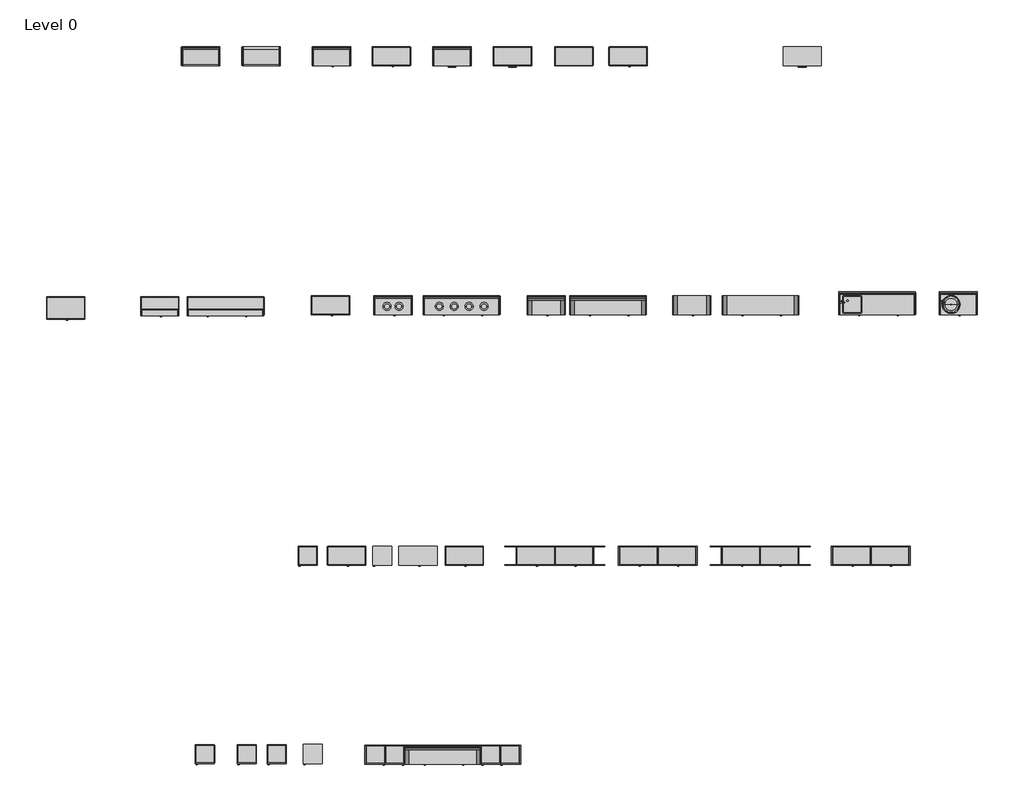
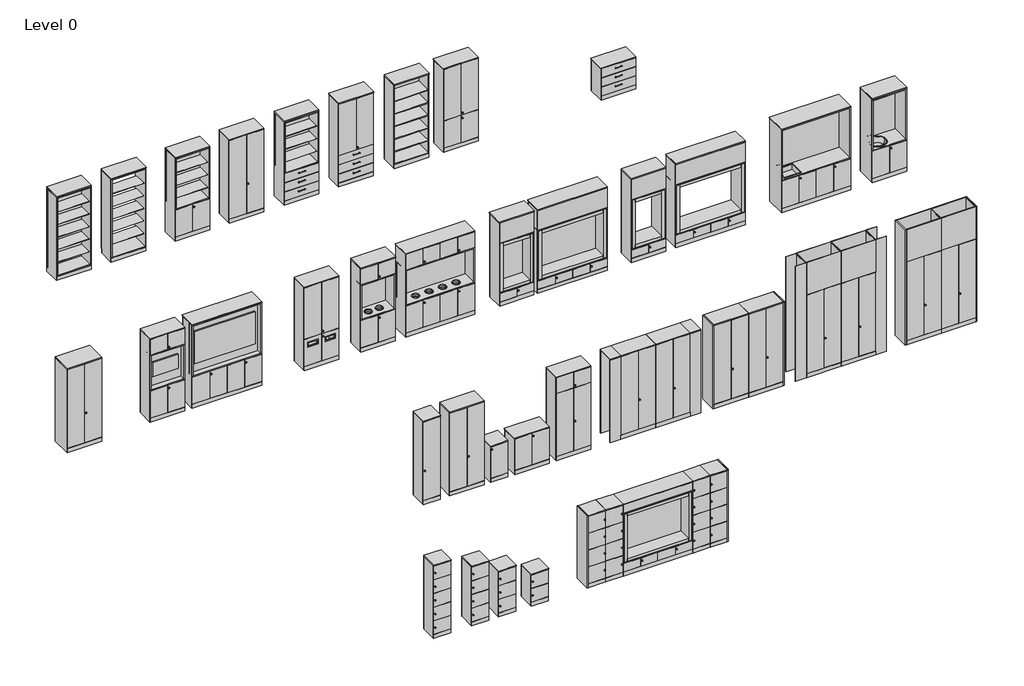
# One storey: 43 furniture elements.
"""IFC4 building model written with IfcOpenShell, lengths in millimetres."""

from ifc_helpers import new_model, si_unit, origin, place, context, project, spatial, transform, mapped, element, save
from components import furniture_3b9fb04d, furniture_51bc77b1, furniture_90a64089, furniture_6ea01ff0, furniture_f89f9e7b, furniture_7591eba8, furniture_052f12db, furniture_b352a6ba, furniture_eb67927f, furniture_93f1a666, furniture_d6841995, furniture_00a0bb52, furniture_08b1c1f8, furniture_1b5e50f1, furniture_0d8f1cfd, furniture_8fe791fa, furniture_2_high_d0233c43, furniture_3_high_bf73a739, furniture_4_high_ba79d616, furniture_4_high_febe7ffe, furniture_4_high_dffadb12, furniture_4_high_c314e3b5, furniture_4_high_4212a1f7, furniture_5_high_cc2030e8, display_module_cf8f66f0, doors_module_1eb81610, doors_module_43d534ba, doors_module_73139786, doors_module_98f6794c, doors_module_a6a85d60, doors_module_63813612, doors_module_3dcb20ef, doors_module_adceae11, doors_module_a12276d2, doors_module_314bc384, doors_module_09854d80, doors_module_149b00ae, doors_module_16a4452a, drawers_module_4158d031, high_waste_module_f75e4131, open_front_module_2814b3d3, split_doors_module_79d25c07

model = new_model("IFC4")

# Units and contexts
model_context = context("Model", 3, world=origin())
ifc_project = project(units=[si_unit("LENGTHUNIT", "METRE", prefix="MILLI")], contexts=[model_context])

# Site, building, storey
site = spatial("IfcSite", under=ifc_project)
building = spatial("IfcBuilding", under=site)
storey = spatial("IfcBuildingStorey", under=building, Name="Level 0", Elevation=0.0)

# Furniture
placement = place(None, origin())
furniture_shape = furniture_3b9fb04d(model_context)
element("IfcFurniture", 1, ObjectType="Furniture_Storage_Spacestor_SignatureStoragewall : Display Module Backless", at=placement, inside=storey, context=model_context, shape_type="MappedRepresentation", body=[
    mapped(furniture_shape, transform((-8995.2358906, 3950.4937354, 0.0), x_axis=(1.0, 0.0, 0.0), y_axis=(0.0, 1.0, 0.0), z_axis=(0.0, 0.0, 1.0))),
])
furniture_2_shape = furniture_51bc77b1(model_context)
element("IfcFurniture", 2, ObjectType="Furniture_Storage_Spacestor_SignatureStoragewall : Doors & Display Module", at=placement, inside=storey, context=model_context, shape_type="MappedRepresentation", body=[
    mapped(furniture_2_shape, transform((-7162.8466466, 3950.4937354, 0.0), x_axis=(1.0, 0.0, 0.0), y_axis=(0.0, 1.0, 0.0), z_axis=(0.0, 0.0, 1.0))),
])
furniture_3_shape = furniture_90a64089(model_context)
element("IfcFurniture", 3, ObjectType="Furniture_Storage_Spacestor_SignatureStoragewall : Drawers & Display Module", at=placement, inside=storey, context=model_context, shape_type="MappedRepresentation", body=[
    mapped(furniture_3_shape, transform((-4024.1997238, 3950.4937354, 0.0), x_axis=(1.0, 0.0, 0.0), y_axis=(0.0, 1.0, 0.0), z_axis=(0.0, 0.0, 1.0))),
])
furniture_4_shape = furniture_6ea01ff0(model_context)
element("IfcFurniture", 4, ObjectType="Furniture_Storage_Spacestor_SignatureStoragewall : Drawers & Doors Module", at=placement, inside=storey, context=model_context, shape_type="MappedRepresentation", body=[
    mapped(furniture_4_shape, transform((-2445.8050285, 3950.4937354, 0.0), x_axis=(1.0, 0.0, 0.0), y_axis=(0.0, 1.0, 0.0), z_axis=(0.0, 0.0, 1.0))),
])
furniture_5_shape = furniture_f89f9e7b(model_context)
element("IfcFurniture", 5, ObjectType="Furniture_Storage_Spacestor_SignatureStoragewall : Teapoint Breakout", at=placement, inside=storey, context=model_context, shape_type="MappedRepresentation", body=[
    mapped(furniture_5_shape, transform((6554.3103788, -2536.2095444, 0.0), x_axis=(1.0, 0.0, 0.0), y_axis=(0.0, 1.0, 0.0), z_axis=(0.0, 0.0, 1.0))),
])
furniture_6_shape = furniture_7591eba8(model_context)
element("IfcFurniture", 6, ObjectType="Furniture_Storage_Spacestor_SignatureStoragewall : Snugglestor Backless Double", at=placement, inside=storey, context=model_context, shape_type="MappedRepresentation", body=[
    mapped(furniture_6_shape, transform((3512.4032782, -2536.2095444, 0.0), x_axis=(1.0, 0.0, 0.0), y_axis=(0.0, 1.0, 0.0), z_axis=(0.0, 0.0, 1.0))),
])
furniture_7_shape = furniture_052f12db(model_context)
element("IfcFurniture", 7, ObjectType="Furniture_Storage_Spacestor_SignatureStoragewall : Snugglestor Double", at=placement, inside=storey, context=model_context, shape_type="MappedRepresentation", body=[
    mapped(furniture_7_shape, transform((-460.7628659, -2536.2095444, 0.0), x_axis=(1.0, 0.0, 0.0), y_axis=(0.0, 1.0, 0.0), z_axis=(0.0, 0.0, 1.0))),
])
furniture_8_shape = furniture_b352a6ba(model_context)
element("IfcFurniture", 8, ObjectType="Furniture_Storage_Spacestor_SignatureStoragewall : Teapoint Wakeup", at=placement, inside=storey, context=model_context, shape_type="MappedRepresentation", body=[
    mapped(furniture_8_shape, transform((9166.8257366, -2536.2095444, 0.0), x_axis=(1.0, 0.0, 0.0), y_axis=(0.0, 1.0, 0.0), z_axis=(0.0, 0.0, 1.0))),
])
furniture_9_shape = furniture_eb67927f(model_context)
element("IfcFurniture", 9, ObjectType="Furniture_Storage_Spacestor_SignatureStoragewall : Mediastor Single", at=placement, inside=storey, context=model_context, shape_type="MappedRepresentation", body=[
    mapped(furniture_9_shape, transform((-11636.0455328, -2556.7095444, 0.0), x_axis=(1.0, 0.0, 0.0), y_axis=(0.0, 1.0, 0.0), z_axis=(0.0, 0.0, 1.0))),
])
furniture_10_shape = furniture_93f1a666(model_context)
element("IfcFurniture", 10, ObjectType="Furniture_Storage_Spacestor_SignatureStoragewall : Mediastor Double", at=placement, inside=storey, context=model_context, shape_type="MappedRepresentation", body=[
    mapped(furniture_10_shape, transform((-10420.5001928, -2556.7095444, 0.0), x_axis=(1.0, 0.0, 0.0), y_axis=(0.0, 1.0, 0.0), z_axis=(0.0, 0.0, 1.0))),
])
furniture_11_shape = furniture_d6841995(model_context)
element("IfcFurniture", 11, ObjectType="Furniture_Storage_Spacestor_SignatureStoragewall : Coats Cupboard", at=placement, inside=storey, context=model_context, shape_type="MappedRepresentation", body=[
    mapped(furniture_11_shape, transform((-14086.6137185, -2656.7095444, 0.0), x_axis=(1.0, 0.0, 0.0), y_axis=(0.0, 1.0, 0.0), z_axis=(0.0, 0.0, 1.0))),
])
furniture_12_shape = furniture_00a0bb52(model_context)
element("IfcFurniture", 12, ObjectType="Furniture_Storage_Spacestor_SignatureStoragewall : Snugglestor Backless Single", at=placement, inside=storey, context=model_context, shape_type="MappedRepresentation", body=[
    mapped(furniture_12_shape, transform((2224.2880671, -2536.2095444, 0.0), x_axis=(1.0, 0.0, 0.0), y_axis=(0.0, 1.0, 0.0), z_axis=(0.0, 0.0, 1.0))),
])
furniture_13_shape = furniture_08b1c1f8(model_context)
element("IfcFurniture", 13, ObjectType="Furniture_Storage_Spacestor_SignatureStoragewall : Snugglestor Single", at=placement, inside=storey, context=model_context, shape_type="MappedRepresentation", body=[
    mapped(furniture_13_shape, transform((-1567.4533994, -2536.2095444, 0.0), x_axis=(1.0, 0.0, 0.0), y_axis=(0.0, 1.0, 0.0), z_axis=(0.0, 0.0, 1.0))),
])
furniture_14_shape = furniture_1b5e50f1(model_context)
element("IfcFurniture", 14, ObjectType="Furniture_Storage_Spacestor_SignatureStoragewall : Recyclepoint Double", at=placement, inside=storey, context=model_context, shape_type="MappedRepresentation", body=[
    mapped(furniture_14_shape, transform((-4271.4698989, -2536.2095444, 0.0), x_axis=(1.0, 0.0, 0.0), y_axis=(0.0, 1.0, 0.0), z_axis=(0.0, 0.0, 1.0))),
])
furniture_15_shape = furniture_0d8f1cfd(model_context)
element("IfcFurniture", 15, ObjectType="Furniture_Storage_Spacestor_SignatureStoragewall : Recyclepoint Single", at=placement, inside=storey, context=model_context, shape_type="MappedRepresentation", body=[
    mapped(furniture_15_shape, transform((-5559.58511, -2536.2095444, 0.0), x_axis=(1.0, 0.0, 0.0), y_axis=(0.0, 1.0, 0.0), z_axis=(0.0, 0.0, 1.0))),
])
furniture_16_shape = furniture_8fe791fa(model_context)
element("IfcFurniture", 16, ObjectType="Furniture_Storage_Spacestor_SignatureStoragewall : Snugglestor Double", at=placement, inside=storey, context=model_context, shape_type="MappedRepresentation", body=[
    mapped(furniture_16_shape, transform((-4765.733605, -14245.2693088, 0.0), x_axis=(1.0, 0.0, 0.0), y_axis=(0.0, 1.0, 0.0), z_axis=(0.0, 0.0, 1.0))),
])
furniture_2_high_shape = furniture_2_high_d0233c43(model_context)
element("IfcFurniture", 17, ObjectType="Furniture_Storage_Spacestor_SignatureHotLocker : 2-high", at=placement, inside=storey, context=model_context, shape_type="MappedRepresentation", body=[
    mapped(furniture_2_high_shape, transform((-7404.8999857, -14230.9210116, 0.0), x_axis=(1.0, 0.0, 0.0), y_axis=(0.0, 1.0, 0.0), z_axis=(0.0, 0.0, 1.0))),
])
furniture_3_high_shape = furniture_3_high_bf73a739(model_context)
element("IfcFurniture", 18, ObjectType="Furniture_Storage_Spacestor_SignatureHotLocker : 3-high", at=placement, inside=storey, context=model_context, shape_type="MappedRepresentation", body=[
    mapped(furniture_3_high_shape, transform((-8337.7013453, -14230.9210116, 0.0), x_axis=(1.0, 0.0, 0.0), y_axis=(0.0, 1.0, 0.0), z_axis=(0.0, 0.0, 1.0))),
])
furniture_4_high_shape = furniture_4_high_ba79d616(model_context)
element("IfcFurniture", 19, ObjectType="Furniture_Storage_Spacestor_SignatureHotLocker : 4-high", at=placement, inside=storey, context=model_context, shape_type="MappedRepresentation", body=[
    mapped(furniture_4_high_shape, transform((-9117.0927589, -14230.9210116, 0.0), x_axis=(1.0, 0.0, 0.0), y_axis=(0.0, 1.0, 0.0), z_axis=(0.0, 0.0, 1.0))),
])
furniture_4_high_2_shape = furniture_4_high_febe7ffe(model_context)
element("IfcFurniture", 20, ObjectType="Furniture_Storage_Spacestor_SignatureHotLocker : 4-high", at=placement, inside=storey, context=model_context, shape_type="MappedRepresentation", body=[
    mapped(furniture_4_high_2_shape, transform((-5265.733605, -14245.2693088, 0.0), x_axis=(1.0, 0.0, 0.0), y_axis=(0.0, 1.0, 0.0), z_axis=(0.0, 0.0, 1.0))),
])
furniture_4_high_3_shape = furniture_4_high_dffadb12(model_context)
element("IfcFurniture", 21, ObjectType="Furniture_Storage_Spacestor_SignatureHotLocker : 4-high", at=placement, inside=storey, context=model_context, shape_type="MappedRepresentation", body=[
    mapped(furniture_4_high_3_shape, transform((-2765.733605, -14245.2693088, 0.0), x_axis=(1.0, 0.0, 0.0), y_axis=(0.0, 1.0, 0.0), z_axis=(0.0, 0.0, 1.0))),
])
furniture_4_high_4_shape = furniture_4_high_c314e3b5(model_context)
element("IfcFurniture", 22, ObjectType="Furniture_Storage_Spacestor_SignatureHotLocker : 4-high", at=placement, inside=storey, context=model_context, shape_type="MappedRepresentation", body=[
    mapped(furniture_4_high_4_shape, transform((-2265.733605, -14245.2693088, 0.0), x_axis=(1.0, 0.0, 0.0), y_axis=(0.0, 1.0, 0.0), z_axis=(0.0, 0.0, 1.0))),
])
furniture_4_high_5_shape = furniture_4_high_4212a1f7(model_context)
element("IfcFurniture", 23, ObjectType="Furniture_Storage_Spacestor_SignatureHotLocker : 4-high", at=placement, inside=storey, context=model_context, shape_type="MappedRepresentation", body=[
    mapped(furniture_4_high_5_shape, transform((-5765.733605, -14245.2693088, 0.0), x_axis=(1.0, 0.0, 0.0), y_axis=(0.0, 1.0, 0.0), z_axis=(0.0, 0.0, 1.0))),
])
furniture_5_high_shape = furniture_5_high_cc2030e8(model_context)
element("IfcFurniture", 24, ObjectType="Furniture_Storage_Spacestor_SignatureHotLocker : 5-high", at=placement, inside=storey, context=model_context, shape_type="MappedRepresentation", body=[
    mapped(furniture_5_high_shape, transform((-10210.5213881, -14230.9210116, 0.0), x_axis=(1.0, 0.0, 0.0), y_axis=(0.0, 1.0, 0.0), z_axis=(0.0, 0.0, 1.0))),
])
display_module_shape = display_module_cf8f66f0(model_context)
element("IfcFurniture", 25, ObjectType="Furniture_Storage_Spacestor_SignatureStoragewall : Display Module", at=placement, inside=storey, context=model_context, shape_type="MappedRepresentation", body=[
    mapped(display_module_shape, transform((-10573.6305859, 3950.4937354, 0.0), x_axis=(1.0, 0.0, 0.0), y_axis=(0.0, 1.0, 0.0), z_axis=(0.0, 0.0, 1.0))),
])
doors_module_shape = doors_module_1eb81610(model_context)
element("IfcFurniture", 26, ObjectType="Furniture_Storage_Spacestor_SignatureStoragewall : Doors Module", at=placement, inside=storey, context=model_context, shape_type="MappedRepresentation", body=[
    mapped(doors_module_shape, transform((-5602.5944191, 3950.4937354, 0.0), x_axis=(1.0, 0.0, 0.0), y_axis=(0.0, 1.0, 0.0), z_axis=(0.0, 0.0, 1.0))),
])
element("IfcFurniture", 27, ObjectType="Furniture_Storage_Spacestor_SignatureStoragewall : Doors Module", at=placement, inside=storey, context=model_context, shape_type="MappedRepresentation", body=[
    mapped(doors_module_shape, transform((-6766.7965754, -9063.7426365, 0.0), x_axis=(1.0, 0.0, 0.0), y_axis=(0.0, 1.0, 0.0), z_axis=(0.0, 0.0, 1.0))),
])
doors_module_2_shape = doors_module_43d534ba(model_context)
element("IfcFurniture", 28, ObjectType="Furniture_Storage_Spacestor_SignatureStoragewall : Doors Module", at=placement, inside=storey, context=model_context, shape_type="MappedRepresentation", body=[
    mapped(doors_module_2_shape, transform((-7529.9461065, -9063.7426365, 0.0), x_axis=(1.0, 0.0, 0.0), y_axis=(0.0, 1.0, 0.0), z_axis=(0.0, 0.0, 1.0))),
])
doors_module_3_shape = doors_module_73139786(model_context)
element("IfcFurniture", 29, ObjectType="Furniture_Storage_Spacestor_SignatureStoragewall : Doors Module", at=placement, inside=storey, context=model_context, shape_type="MappedRepresentation", body=[
    mapped(doors_module_3_shape, transform((-5590.6570869, -9063.7426365, 0.0), x_axis=(1.0, 0.0, 0.0), y_axis=(0.0, 1.0, 0.0), z_axis=(0.0, 0.0, 1.0))),
])
doors_module_4_shape = doors_module_98f6794c(model_context)
element("IfcFurniture", 30, ObjectType="Furniture_Storage_Spacestor_SignatureStoragewall : Doors Module", at=placement, inside=storey, context=model_context, shape_type="MappedRepresentation", body=[
    mapped(doors_module_4_shape, transform((-4903.9526786, -9063.7426365, 0.0), x_axis=(1.0, 0.0, 0.0), y_axis=(0.0, 1.0, 0.0), z_axis=(0.0, 0.0, 1.0))),
])
doors_module_5_shape = doors_module_a6a85d60(model_context)
element("IfcFurniture", 31, ObjectType="Furniture_Storage_Spacestor_SignatureStoragewall : Doors Module", at=placement, inside=storey, context=model_context, shape_type="MappedRepresentation", body=[
    mapped(doors_module_5_shape, transform((-3702.5370285, -9063.7426365, 0.0), x_axis=(1.0, 0.0, 0.0), y_axis=(0.0, 1.0, 0.0), z_axis=(0.0, 0.0, 1.0))),
])
doors_module_6_shape = doors_module_63813612(model_context)
element("IfcFurniture", 32, ObjectType="Furniture_Storage_Spacestor_SignatureStoragewall : Doors Module", at=placement, inside=storey, context=model_context, shape_type="MappedRepresentation", body=[
    mapped(doors_module_6_shape, transform((-1840.6561572, -9063.7426365, 0.0), x_axis=(1.0, 0.0, 0.0), y_axis=(0.0, 1.0, 0.0), z_axis=(0.0, 0.0, 1.0))),
])
doors_module_7_shape = doors_module_3dcb20ef(model_context)
element("IfcFurniture", 33, ObjectType="Furniture_Storage_Spacestor_SignatureStoragewall : Doors Module", at=placement, inside=storey, context=model_context, shape_type="MappedRepresentation", body=[
    mapped(doors_module_7_shape, transform((-840.6561572, -9063.7426365, 0.0), x_axis=(1.0, 0.0, 0.0), y_axis=(0.0, 1.0, 0.0), z_axis=(0.0, 0.0, 1.0))),
])
doors_module_8_shape = doors_module_adceae11(model_context)
element("IfcFurniture", 34, ObjectType="Furniture_Storage_Spacestor_SignatureStoragewall : Doors Module", at=placement, inside=storey, context=model_context, shape_type="MappedRepresentation", body=[
    mapped(doors_module_8_shape, transform((3503.220583, -9063.7426365, 0.0), x_axis=(1.0, 0.0, 0.0), y_axis=(0.0, 1.0, 0.0), z_axis=(0.0, 0.0, 1.0))),
])
doors_module_9_shape = doors_module_a12276d2(model_context)
element("IfcFurniture", 35, ObjectType="Furniture_Storage_Spacestor_SignatureStoragewall : Doors Module", at=placement, inside=storey, context=model_context, shape_type="MappedRepresentation", body=[
    mapped(doors_module_9_shape, transform((4503.220583, -9063.7426365, 0.0), x_axis=(1.0, 0.0, 0.0), y_axis=(0.0, 1.0, 0.0), z_axis=(0.0, 0.0, 1.0))),
])
doors_module_10_shape = doors_module_314bc384(model_context)
element("IfcFurniture", 36, ObjectType="Furniture_Storage_Spacestor_SignatureStoragewall : Doors Module", at=placement, inside=storey, context=model_context, shape_type="MappedRepresentation", body=[
    mapped(doors_module_10_shape, transform((6382.865519, -9063.7426365, 0.0), x_axis=(1.0, 0.0, 0.0), y_axis=(0.0, 1.0, 0.0), z_axis=(0.0, 0.0, 1.0))),
])
doors_module_11_shape = doors_module_09854d80(model_context)
element("IfcFurniture", 37, ObjectType="Furniture_Storage_Spacestor_SignatureStoragewall : Doors Module", at=placement, inside=storey, context=model_context, shape_type="MappedRepresentation", body=[
    mapped(doors_module_11_shape, transform((7382.865519, -9063.7426365, 0.0), x_axis=(1.0, 0.0, 0.0), y_axis=(0.0, 1.0, 0.0), z_axis=(0.0, 0.0, 1.0))),
])
doors_module_12_shape = doors_module_149b00ae(model_context)
element("IfcFurniture", 38, ObjectType="Furniture_Storage_Spacestor_SignatureStoragewall : Doors Module", at=placement, inside=storey, context=model_context, shape_type="MappedRepresentation", body=[
    mapped(doors_module_12_shape, transform((835.3836253, -9063.7426365, 0.0), x_axis=(1.0, 0.0, 0.0), y_axis=(0.0, 1.0, 0.0), z_axis=(0.0, 0.0, 1.0))),
])
doors_module_13_shape = doors_module_16a4452a(model_context)
element("IfcFurniture", 39, ObjectType="Furniture_Storage_Spacestor_SignatureStoragewall : Doors Module", at=placement, inside=storey, context=model_context, shape_type="MappedRepresentation", body=[
    mapped(doors_module_13_shape, transform((1835.3836253, -9063.7426365, 0.0), x_axis=(1.0, 0.0, 0.0), y_axis=(0.0, 1.0, 0.0), z_axis=(0.0, 0.0, 1.0))),
])
drawers_module_shape = drawers_module_4158d031(model_context)
element("IfcFurniture", 40, ObjectType="Furniture_Storage_Spacestor_SignatureStoragewall : Drawers Module", at=placement, inside=storey, context=model_context, shape_type="MappedRepresentation", body=[
    mapped(drawers_module_shape, transform((5101.4615605, 3950.4937354, 0.0), x_axis=(1.0, 0.0, 0.0), y_axis=(0.0, 1.0, 0.0), z_axis=(0.0, 0.0, 1.0))),
])
high_waste_module_shape = high_waste_module_f75e4131(model_context)
element("IfcFurniture", 41, ObjectType="Furniture_Storage_Spacestor_SignatureStoragewall : High Waste Module", at=placement, inside=storey, context=model_context, shape_type="MappedRepresentation", body=[
    mapped(high_waste_module_shape, transform((-7187.8994123, -2536.2095444, 0.0), x_axis=(1.0, 0.0, 0.0), y_axis=(0.0, 1.0, 0.0), z_axis=(0.0, 0.0, 1.0))),
])
open_front_module_shape = open_front_module_2814b3d3(model_context)
element("IfcFurniture", 42, ObjectType="Furniture_Storage_Spacestor_SignatureStoragewall : Open Front Module", at=placement, inside=storey, context=model_context, shape_type="MappedRepresentation", body=[
    mapped(open_front_module_shape, transform((-849.2678655, 3950.4937354, 0.0), x_axis=(1.0, 0.0, 0.0), y_axis=(0.0, 1.0, 0.0), z_axis=(0.0, 0.0, 1.0))),
])
split_doors_module_shape = split_doors_module_79d25c07(model_context)
element("IfcFurniture", 43, ObjectType="Furniture_Storage_Spacestor_SignatureStoragewall : Split Doors Module", at=placement, inside=storey, context=model_context, shape_type="MappedRepresentation", body=[
    mapped(split_doors_module_shape, transform((565.84462, 3950.4937354, 0.0), x_axis=(1.0, 0.0, 0.0), y_axis=(0.0, 1.0, 0.0), z_axis=(0.0, 0.0, 1.0))),
])

save(model, "model.ifc")
